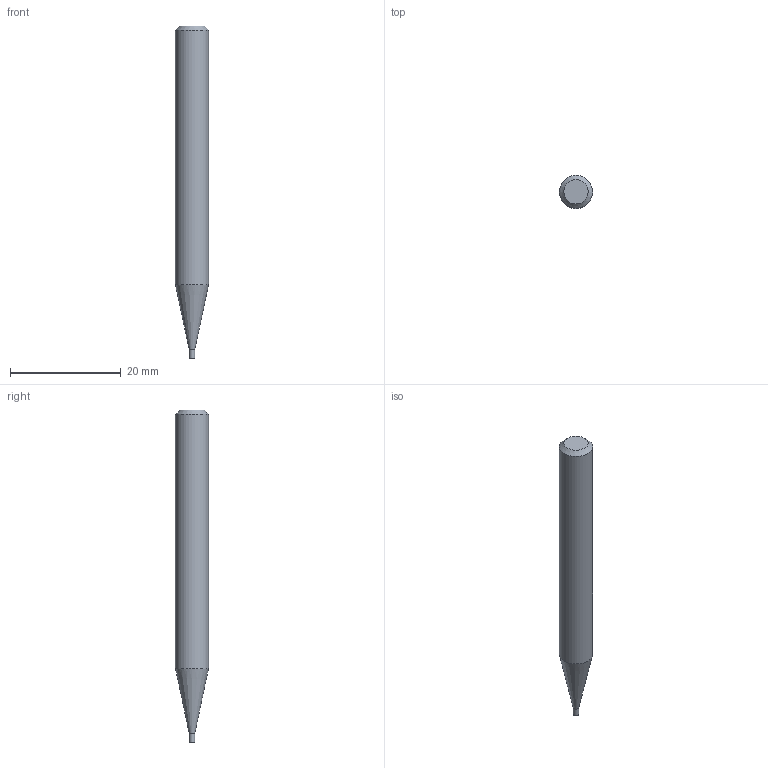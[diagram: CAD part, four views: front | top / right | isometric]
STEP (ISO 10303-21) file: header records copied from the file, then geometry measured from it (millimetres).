
FILE_DESCRIPTION((''),'2;1');
FILE_NAME('C:\Users\nsx150\AppData\Local\Temp\Mastercam 2021\Y59DX2IYLB\TEMP.step','2021-04-08T16:59:14',(''),(''),'STEP Write','Mastercam 2021 ... CNC Software, Inc.','');
FILE_SCHEMA(('AUTOMOTIVE_DESIGN'));
Length unit declared in the file: millimetre
Products named in the file (1): None
Bounding box: 6 x 6 x 60 mm (x, y, z)
Volume: 1449.6 mm3; surface area: 1038.9 mm2
Topology: 2 solids, 2 shells, 8 faces, 10 edges, 6 vertices
Faces by surface type: plane 4, cylinder 2, cone 2
Full cylindrical faces by diameter (mm): 1 x1, 6 x1
Entity records: 190 total; most frequent: DIRECTION 32, CARTESIAN_POINT 22, AXIS2_PLACEMENT_3D 16, ORIENTED_EDGE 12, EDGE_LOOP 12, STYLED_ITEM 11, ADVANCED_FACE 8, VERTEX_POINT 6
